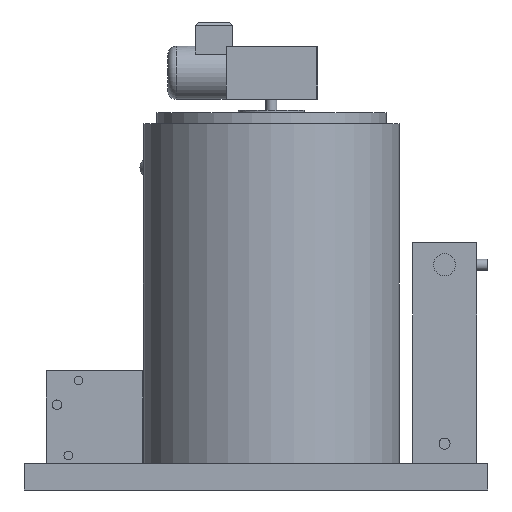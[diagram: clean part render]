
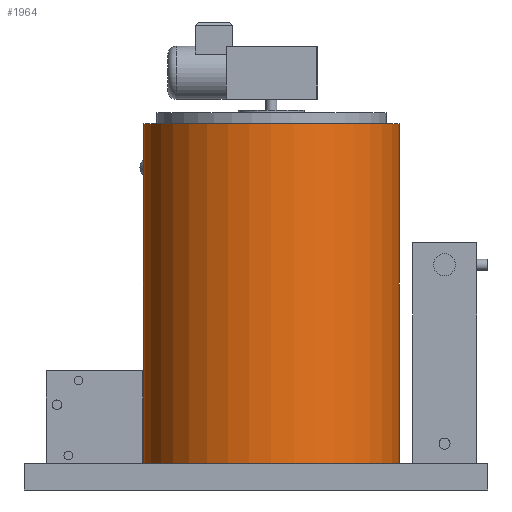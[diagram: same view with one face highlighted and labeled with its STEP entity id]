
A CAD part, front view. The second image highlights one B-rep face of the part: STEP entity #1964.
In plain terms, the highlighted cylindrical face has radius 290 mm (diameter 580 mm), a full revolution.
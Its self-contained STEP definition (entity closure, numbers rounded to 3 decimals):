
#21=B_SPLINE_CURVE_WITH_KNOTS('',3,(#2699,#2700,#2701,#2702,#2703,#2704,
#2705,#2706,#2707,#2708,#2709,#2710,#2711,#2712,#2713,#2714,#2715,#2716,
#2717,#2718,#2719,#2720,#2721,#2722,#2723,#2724,#2725,#2726,#2727,#2728,
#2729,#2730,#2731,#2732,#2733,#2734,#2735,#2736,#2737,#2738,#2739,#2740,
#2741,#2742,#2743),.UNSPECIFIED.,.T.,.F.,(1,1,1,1,1,1,1,1,1,1,1,1,1,1,1,
1,1,1,1,1,1,1,1,1,1,1,1,1,1,1,1,1,1,1,1,1,1,1,1,1,1,1,1,1,1,1,1,1,1),(-0.012,
-0.01,-0.005,0.,0.005,
0.01,0.015,0.02,0.025,
0.03,0.032,0.035,0.04,
0.045,0.05,0.052,0.054,
0.059,0.062,0.064,0.067,
0.069,0.074,0.079,0.084,
0.087,0.089,0.092,0.094,
0.099,0.104,0.109,0.111,
0.114,0.116,0.119,0.124,
0.126,0.129,0.134,0.139,
0.144,0.146,0.149,0.154,
0.158,0.163,0.168,0.173),
 .UNSPECIFIED.);
#28=CYLINDRICAL_SURFACE('',#2082,290.);
#349=ORIENTED_EDGE('',*,*,#657,.F.);
#350=ORIENTED_EDGE('',*,*,#658,.T.);
#351=ORIENTED_EDGE('',*,*,#616,.T.);
#616=EDGE_CURVE('',#781,#781,#898,.T.);
#657=EDGE_CURVE('',#818,#818,#21,.T.);
#658=EDGE_CURVE('',#819,#819,#917,.T.);
#781=VERTEX_POINT('',#2609);
#818=VERTEX_POINT('',#2744);
#819=VERTEX_POINT('',#2746);
#898=CIRCLE('',#2051,290.);
#917=CIRCLE('',#2083,290.);
#986=EDGE_LOOP('',(#349));
#987=EDGE_LOOP('',(#350));
#988=EDGE_LOOP('',(#351));
#1140=FACE_BOUND('',#986,.T.);
#1141=FACE_BOUND('',#987,.T.);
#1142=FACE_BOUND('',#988,.T.);
#1964=ADVANCED_FACE('',(#1140,#1141,#1142),#28,.T.);
#2051=AXIS2_PLACEMENT_3D('',#2608,#2206,#2207);
#2082=AXIS2_PLACEMENT_3D('',#2698,#2290,#2291);
#2083=AXIS2_PLACEMENT_3D('',#2745,#2292,#2293);
#2206=DIRECTION('',(0.,0.,1.));
#2207=DIRECTION('',(1.,0.,0.));
#2290=DIRECTION('',(0.,0.,-1.));
#2291=DIRECTION('',(-1.,0.,0.));
#2292=DIRECTION('',(0.,0.,-1.));
#2293=DIRECTION('',(1.,0.,0.));
#2608=CARTESIAN_POINT('',(35.,-65.,30.));
#2609=CARTESIAN_POINT('',(325.,-65.,30.));
#2698=CARTESIAN_POINT('',(35.,-65.,800.));
#2699=CARTESIAN_POINT('',(-143.522,163.539,705.011));
#2700=CARTESIAN_POINT('',(-143.123,163.85,699.988));
#2701=CARTESIAN_POINT('',(-143.517,163.543,695.037));
#2702=CARTESIAN_POINT('',(-144.694,162.621,690.231));
#2703=CARTESIAN_POINT('',(-146.563,161.136,685.881));
#2704=CARTESIAN_POINT('',(-149.086,159.091,682.036));
#2705=CARTESIAN_POINT('',(-152.087,156.595,678.944));
#2706=CARTESIAN_POINT('',(-154.911,154.175,677.039));
#2707=CARTESIAN_POINT('',(-157.261,152.112,675.974));
#2708=CARTESIAN_POINT('',(-159.698,149.936,675.205));
#2709=CARTESIAN_POINT('',(-162.724,147.164,674.843));
#2710=CARTESIAN_POINT('',(-166.365,143.71,675.352));
#2711=CARTESIAN_POINT('',(-169.183,140.945,676.523));
#2712=CARTESIAN_POINT('',(-171.336,138.782,677.916));
#2713=CARTESIAN_POINT('',(-173.339,136.738,679.566));
#2714=CARTESIAN_POINT('',(-175.151,134.848,681.609));
#2715=CARTESIAN_POINT('',(-176.733,133.166,684.026));
#2716=CARTESIAN_POINT('',(-177.772,132.05,685.972));
#2717=CARTESIAN_POINT('',(-178.673,131.072,688.059));
#2718=CARTESIAN_POINT('',(-179.691,129.958,691.058));
#2719=CARTESIAN_POINT('',(-180.543,129.014,694.976));
#2720=CARTESIAN_POINT('',(-180.899,128.617,699.997));
#2721=CARTESIAN_POINT('',(-180.614,128.935,704.102));
#2722=CARTESIAN_POINT('',(-180.037,129.575,707.347));
#2723=CARTESIAN_POINT('',(-179.444,130.228,709.663));
#2724=CARTESIAN_POINT('',(-178.696,131.047,711.882));
#2725=CARTESIAN_POINT('',(-177.478,132.369,714.716));
#2726=CARTESIAN_POINT('',(-175.634,134.344,717.837));
#2727=CARTESIAN_POINT('',(-172.888,137.209,720.947));
#2728=CARTESIAN_POINT('',(-170.311,139.821,722.837));
#2729=CARTESIAN_POINT('',(-168.06,142.047,723.942));
#2730=CARTESIAN_POINT('',(-166.336,143.724,724.534));
#2731=CARTESIAN_POINT('',(-164.568,145.416,724.901));
#2732=CARTESIAN_POINT('',(-162.135,147.703,725.085));
#2733=CARTESIAN_POINT('',(-159.698,149.936,724.793));
#2734=CARTESIAN_POINT('',(-157.298,152.08,724.041));
#2735=CARTESIAN_POINT('',(-154.909,154.177,722.962));
#2736=CARTESIAN_POINT('',(-152.127,156.561,721.089));
#2737=CARTESIAN_POINT('',(-149.082,159.094,717.957));
#2738=CARTESIAN_POINT('',(-147.014,160.771,714.815));
#2739=CARTESIAN_POINT('',(-145.635,161.873,711.958));
#2740=CARTESIAN_POINT('',(-144.504,162.77,708.988));
#2741=CARTESIAN_POINT('',(-143.522,163.539,705.011));
#2742=CARTESIAN_POINT('',(-143.123,163.85,699.988));
#2743=CARTESIAN_POINT('',(-143.517,163.543,695.037));
#2744=CARTESIAN_POINT('',(-143.255,163.747,700.));
#2745=CARTESIAN_POINT('',(35.,-65.,800.));
#2746=CARTESIAN_POINT('',(325.,-65.,800.));
